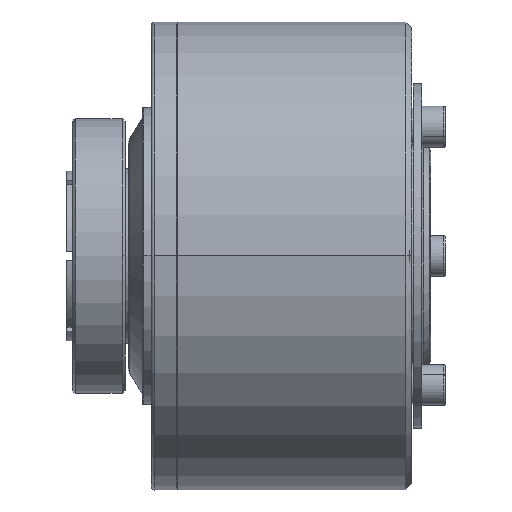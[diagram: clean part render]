
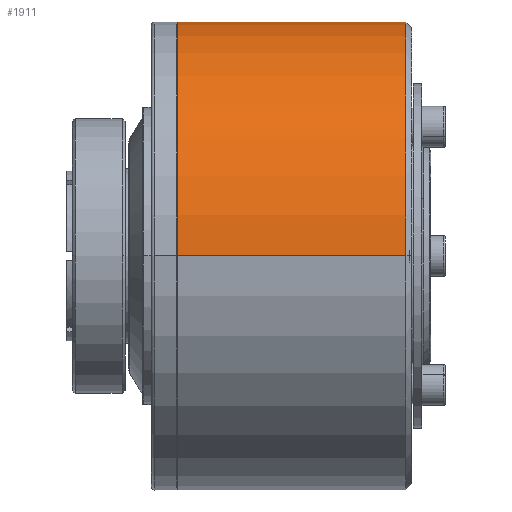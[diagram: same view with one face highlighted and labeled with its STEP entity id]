
A CAD part, top view. The second image highlights one B-rep face of the part: STEP entity #1911.
In plain terms, the highlighted cylindrical face has radius 40 mm (diameter 80 mm), a partial arc.
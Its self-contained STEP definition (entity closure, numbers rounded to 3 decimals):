
#1911=ADVANCED_FACE('',(#5434),#5435,.T.);
#5434=FACE_OUTER_BOUND('',#10794,.T.);
#5435=CYLINDRICAL_SURFACE('',#10795,40.);
#10794=EDGE_LOOP('',(#17932,#17933,#17934,#17935,#17936,#17937,#17938,#17939));
#10795=AXIS2_PLACEMENT_3D('',#17940,#17941,#17942);
#17932=ORIENTED_EDGE('',*,*,#32774,.F.);
#17933=ORIENTED_EDGE('',*,*,#32760,.T.);
#17934=ORIENTED_EDGE('',*,*,#32775,.F.);
#17935=ORIENTED_EDGE('',*,*,#32776,.F.);
#17936=ORIENTED_EDGE('',*,*,#32777,.F.);
#17937=ORIENTED_EDGE('',*,*,#32778,.T.);
#17938=ORIENTED_EDGE('',*,*,#32779,.F.);
#17939=ORIENTED_EDGE('',*,*,#32780,.F.);
#17940=CARTESIAN_POINT('',(39.,0.,0.));
#17941=DIRECTION('',(-1.0,0.,0.));
#17942=DIRECTION('',(0.,0.,1.0));
#32760=EDGE_CURVE('',#38698,#38711,#38713,.T.);
#32774=EDGE_CURVE('',#38698,#38736,#38737,.T.);
#32775=EDGE_CURVE('',#38738,#38711,#38739,.T.);
#32776=EDGE_CURVE('',#38740,#38738,#38741,.T.);
#32777=EDGE_CURVE('',#38742,#38740,#38743,.T.);
#32778=EDGE_CURVE('',#38742,#38744,#38745,.T.);
#32779=EDGE_CURVE('',#38746,#38744,#38747,.T.);
#32780=EDGE_CURVE('',#38736,#38746,#38748,.T.);
#38698=VERTEX_POINT('',#47243);
#38711=VERTEX_POINT('',#47344);
#38713=CIRCLE('',#47391,40.);
#38736=VERTEX_POINT('',#47418);
#38737=LINE('',#47419,#47420);
#38738=VERTEX_POINT('',#47421);
#38739=LINE('',#47422,#47423);
#38740=VERTEX_POINT('',#47424);
#38741=B_SPLINE_CURVE_WITH_KNOTS('',3,(#47425,#47426,#47427,#47428,#47429,#47430,#47431,#47432,#47433,#47434,#47435,#47436,#47437,#47438,#47439,#47440,#47441,#47442,#47443,#47444,#47445,#47446,#47447,#47448,#47449,#47450),.UNSPECIFIED.,.F.,.F.,(4,2,2,2,2,2,2,2,2,2,2,2,4),(0.0,2.325,4.649,5.812,6.974,8.136,9.298,10.461,11.623,12.785,13.948,16.272,18.597),.UNSPECIFIED.);
#38742=VERTEX_POINT('',#47451);
#38743=B_SPLINE_CURVE_WITH_KNOTS('',3,(#47452,#47453,#47454,#47455,#47456,#47457,#47458,#47459,#47460,#47461,#47462,#47463,#47464,#47465,#47466,#47467,#47468,#47469,#47470,#47471,#47472,#47473,#47474,#47475,#47476,#47477),.UNSPECIFIED.,.F.,.F.,(4,2,2,2,2,2,2,2,2,2,2,2,4),(0.0,2.325,4.649,5.812,6.974,8.136,9.298,10.461,11.623,12.785,13.948,16.272,18.597),.UNSPECIFIED.);
#38744=VERTEX_POINT('',#47478);
#38745=CIRCLE('',#47479,40.);
#38746=VERTEX_POINT('',#47480);
#38747=LINE('',#47481,#47482);
#38748=CIRCLE('',#47483,40.);
#47243=CARTESIAN_POINT('',(58.,0.,40.));
#47344=CARTESIAN_POINT('',(58.,20.,-34.641));
#47391=AXIS2_PLACEMENT_3D('',#65559,#65560,#65561);
#47418=CARTESIAN_POINT('',(19.,0.,40.));
#47419=CARTESIAN_POINT('',(39.,0.,40.));
#47420=VECTOR('',#65584,1.0);
#47421=CARTESIAN_POINT('',(24.,20.,-34.641));
#47422=CARTESIAN_POINT('',(39.,20.,-34.641));
#47423=VECTOR('',#65585,1.0);
#47424=CARTESIAN_POINT('',(23.301,17.931,-35.756));
#47425=CARTESIAN_POINT('',(19.,13.004,-37.827));
#47426=CARTESIAN_POINT('',(19.529,13.54,-37.643));
#47427=CARTESIAN_POINT('',(20.075,14.098,-37.438));
#47428=CARTESIAN_POINT('',(21.149,15.234,-36.991));
#47429=CARTESIAN_POINT('',(21.677,15.81,-36.748));
#47430=CARTESIAN_POINT('',(22.402,16.678,-36.359));
#47431=CARTESIAN_POINT('',(22.632,16.967,-36.225));
#47432=CARTESIAN_POINT('',(23.058,17.547,-35.947));
#47433=CARTESIAN_POINT('',(23.253,17.838,-35.804));
#47434=CARTESIAN_POINT('',(23.591,18.429,-35.503));
#47435=CARTESIAN_POINT('',(23.734,18.728,-35.347));
#47436=CARTESIAN_POINT('',(23.938,19.346,-35.012));
#47437=CARTESIAN_POINT('',(24.,19.664,-34.835));
#47438=CARTESIAN_POINT('',(24.,20.336,-34.447));
#47439=CARTESIAN_POINT('',(23.938,20.649,-34.26));
#47440=CARTESIAN_POINT('',(23.734,21.247,-33.892));
#47441=CARTESIAN_POINT('',(23.591,21.532,-33.712));
#47442=CARTESIAN_POINT('',(23.253,22.088,-33.35));
#47443=CARTESIAN_POINT('',(23.058,22.358,-33.17));
#47444=CARTESIAN_POINT('',(22.632,22.888,-32.806));
#47445=CARTESIAN_POINT('',(22.402,23.149,-32.623));
#47446=CARTESIAN_POINT('',(21.677,23.92,-32.066));
#47447=CARTESIAN_POINT('',(21.149,24.418,-31.688));
#47448=CARTESIAN_POINT('',(20.075,25.373,-30.928));
#47449=CARTESIAN_POINT('',(19.529,25.83,-30.547));
#47450=CARTESIAN_POINT('',(19.,26.257,-30.176));
#47451=CARTESIAN_POINT('',(22.,16.199,-36.573));
#47452=CARTESIAN_POINT('',(19.,13.004,-37.827));
#47453=CARTESIAN_POINT('',(19.529,13.54,-37.643));
#47454=CARTESIAN_POINT('',(20.075,14.098,-37.438));
#47455=CARTESIAN_POINT('',(21.149,15.234,-36.991));
#47456=CARTESIAN_POINT('',(21.677,15.81,-36.748));
#47457=CARTESIAN_POINT('',(22.402,16.678,-36.359));
#47458=CARTESIAN_POINT('',(22.632,16.967,-36.225));
#47459=CARTESIAN_POINT('',(23.058,17.547,-35.947));
#47460=CARTESIAN_POINT('',(23.253,17.838,-35.804));
#47461=CARTESIAN_POINT('',(23.591,18.429,-35.503));
#47462=CARTESIAN_POINT('',(23.734,18.728,-35.347));
#47463=CARTESIAN_POINT('',(23.938,19.346,-35.012));
#47464=CARTESIAN_POINT('',(24.,19.664,-34.835));
#47465=CARTESIAN_POINT('',(24.,20.336,-34.447));
#47466=CARTESIAN_POINT('',(23.938,20.649,-34.26));
#47467=CARTESIAN_POINT('',(23.734,21.247,-33.892));
#47468=CARTESIAN_POINT('',(23.591,21.532,-33.712));
#47469=CARTESIAN_POINT('',(23.253,22.088,-33.35));
#47470=CARTESIAN_POINT('',(23.058,22.358,-33.17));
#47471=CARTESIAN_POINT('',(22.632,22.888,-32.806));
#47472=CARTESIAN_POINT('',(22.402,23.149,-32.623));
#47473=CARTESIAN_POINT('',(21.677,23.92,-32.066));
#47474=CARTESIAN_POINT('',(21.149,24.418,-31.688));
#47475=CARTESIAN_POINT('',(20.075,25.373,-30.928));
#47476=CARTESIAN_POINT('',(19.529,25.83,-30.547));
#47477=CARTESIAN_POINT('',(19.,26.257,-30.176));
#47478=CARTESIAN_POINT('',(22.,0.,-40.));
#47479=AXIS2_PLACEMENT_3D('',#65586,#65587,#65588);
#47480=CARTESIAN_POINT('',(19.,0.,-40.));
#47481=CARTESIAN_POINT('',(39.,0.,-40.));
#47482=VECTOR('',#65589,1.0);
#47483=AXIS2_PLACEMENT_3D('',#65590,#65591,#65592);
#65559=CARTESIAN_POINT('',(58.,0.,0.));
#65560=DIRECTION('',(-1.0,0.,0.));
#65561=DIRECTION('',(0.,0.,1.0));
#65584=DIRECTION('',(-1.0,0.,0.));
#65585=DIRECTION('',(1.0,0.,0.));
#65586=CARTESIAN_POINT('',(22.,0.,0.));
#65587=DIRECTION('',(-1.0,0.,0.));
#65588=DIRECTION('',(0.,0.,1.0));
#65589=DIRECTION('',(1.0,0.,0.));
#65590=CARTESIAN_POINT('',(19.,0.,0.));
#65591=DIRECTION('',(-1.0,0.,0.));
#65592=DIRECTION('',(0.,0.,1.0));
